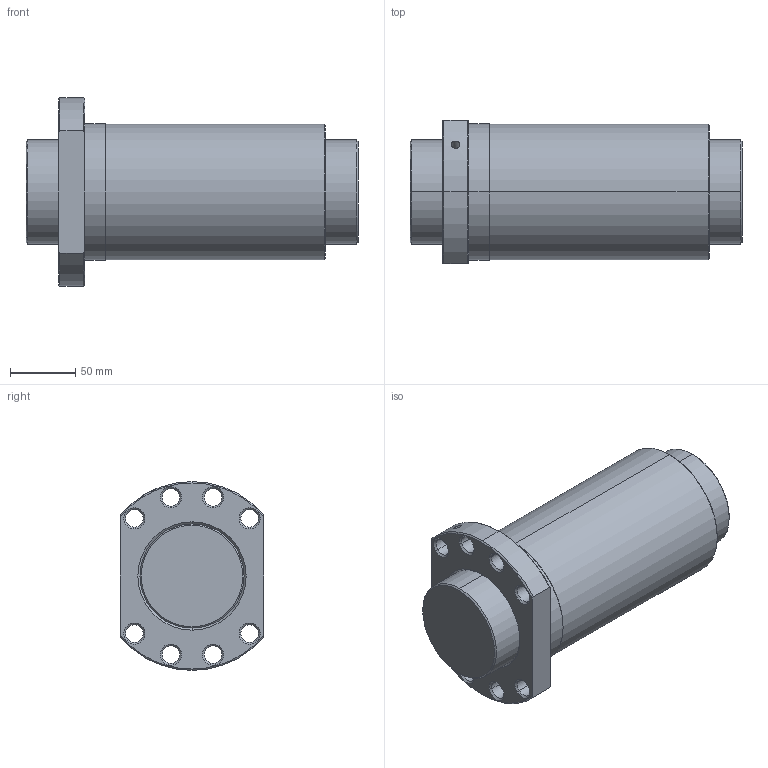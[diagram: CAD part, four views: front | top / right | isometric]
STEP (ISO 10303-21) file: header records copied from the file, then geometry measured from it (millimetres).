
FILE_DESCRIPTION(('no description'),'unknown implementation level');
FILE_NAME('R80_10T6_DDB_255_255_0_023_67.stp',' ',('HIWIN GmbH'),('CADClick - KiM GmbH - www.kimweb.de'),'unknown preprocess','ACIS','unknown authorization');
FILE_SCHEMA(('CONFIG_CONTROL_DESIGN'));
Length unit declared in the file: millimetre
Products named in the file (2): 1; 2
Bounding box: 255 x 110 x 145 mm (x, y, z)
Volume: 2084873.3 mm3; surface area: 216498.8 mm2
Topology: 2 solids, 2 shells, 90 faces, 204 edges, 119 vertices
Faces by surface type: cone 52, cylinder 30, plane 8
Entity records: 2677 total; most frequent: CARTESIAN_POINT 496, DIRECTION 484, ORIENTED_EDGE 404, EDGE_CURVE 202, AXIS2_PLACEMENT_3D 200, VERTEX_POINT 119, EDGE_LOOP 111, CIRCLE 108
